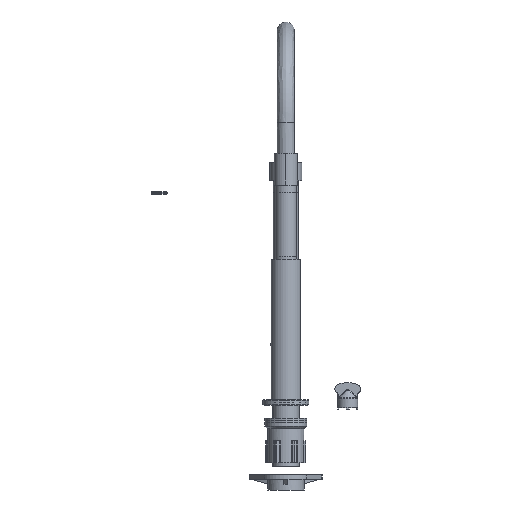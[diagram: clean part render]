
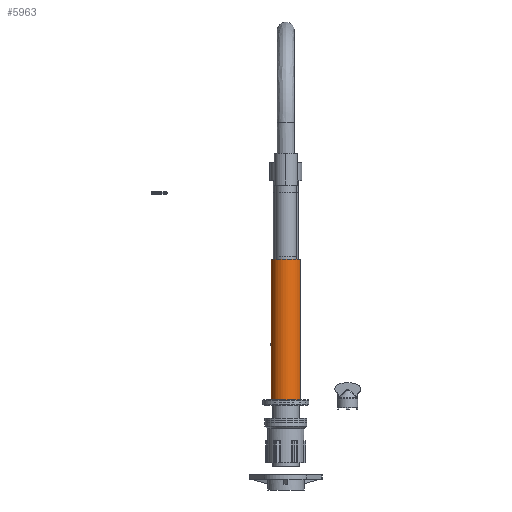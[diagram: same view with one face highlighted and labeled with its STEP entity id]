
A CAD part, front view. The second image highlights one B-rep face of the part: STEP entity #5963.
In plain terms, the highlighted cylindrical face has radius 17.5 mm (diameter 35 mm), a partial arc.
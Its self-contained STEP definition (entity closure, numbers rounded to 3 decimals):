
#6=CARTESIAN_POINT('',(0.,0.,0.));
#7=DIRECTION('',(0.,0.,1.));
#8=DIRECTION('',(-1.,0.,0.));
#9=AXIS2_PLACEMENT_3D('',#6,#7,#8);
#21=CARTESIAN_POINT('',(-17.5,0.,67.));
#61=CARTESIAN_POINT('',(17.5,0.,67.));
#63=DIRECTION('',(0.,0.,1.));
#64=VECTOR('',#63,101.);
#65=CARTESIAN_POINT('',(17.5,0.,67.));
#66=LINE('',#65,#64);
#87=DIRECTION('',(0.,0.,1.));
#88=VECTOR('',#87,67.);
#89=CARTESIAN_POINT('',(17.5,0.,0.));
#90=LINE('',#89,#88);
#2014=CARTESIAN_POINT('',(0.,0.,168.));
#2015=DIRECTION('',(0.,0.,1.));
#2016=DIRECTION('',(-1.,0.,0.));
#2017=AXIS2_PLACEMENT_3D('',#2014,#2015,#2016);
#2029=DIRECTION('',(0.,0.,1.));
#2030=VECTOR('',#2029,67.);
#2031=CARTESIAN_POINT('',(-17.5,0.,0.));
#2032=LINE('',#2031,#2030);
#2033=DIRECTION('',(0.,0.,1.));
#2034=VECTOR('',#2033,101.);
#2035=CARTESIAN_POINT('',(-17.5,0.,
67.));
#2036=LINE('',#2035,#2034);
#2080=CARTESIAN_POINT('',(17.5,0.,0.));
#2081=CARTESIAN_POINT('',(-17.5,0.,0.));
#2082=VERTEX_POINT('',#2080);
#2083=VERTEX_POINT('',#2081);
#2084=CARTESIAN_POINT('',(17.5,0.,168.));
#2085=CARTESIAN_POINT('',(-17.5,0.,168.));
#2086=VERTEX_POINT('',#2084);
#2087=VERTEX_POINT('',#2085);
#2092=VERTEX_POINT('',#21);
#2094=VERTEX_POINT('',#61);
#5950=CARTESIAN_POINT('',(0.,0.,0.));
#5951=DIRECTION('',(0.,0.,1.));
#5952=DIRECTION('',(1.,0.,0.));
#5953=AXIS2_PLACEMENT_3D('',#5950,#5951,#5952);
#5954=CYLINDRICAL_SURFACE('',#5953,17.5);
#5955=ORIENTED_EDGE('',*,*,#2521,.F.);
#5956=ORIENTED_EDGE('',*,*,#2482,.F.);
#5957=ORIENTED_EDGE('',*,*,#2518,.T.);
#5958=ORIENTED_EDGE('',*,*,#2506,.T.);
#5959=ORIENTED_EDGE('',*,*,#5940,.T.);
#5960=ORIENTED_EDGE('',*,*,#2502,.F.);
#5961=EDGE_LOOP('',(#5955,#5956,#5957,#5958,#5959,#5960));
#5962=FACE_OUTER_BOUND('',#5961,.F.);
#5963=ADVANCED_FACE('',(#5962),#5954,.T.);
#10=CIRCLE('',#9,17.5);
#2018=CIRCLE('',#2017,17.5);
#2482=EDGE_CURVE('',#2083,#2082,#10,.T.);
#2502=EDGE_CURVE('',#2094,#2086,#66,.T.);
#2506=EDGE_CURVE('',#2092,#2087,#2036,.T.);
#2518=EDGE_CURVE('',#2083,#2092,#2032,.T.);
#2521=EDGE_CURVE('',#2082,#2094,#90,.T.);
#5940=EDGE_CURVE('',#2087,#2086,#2018,.T.);
